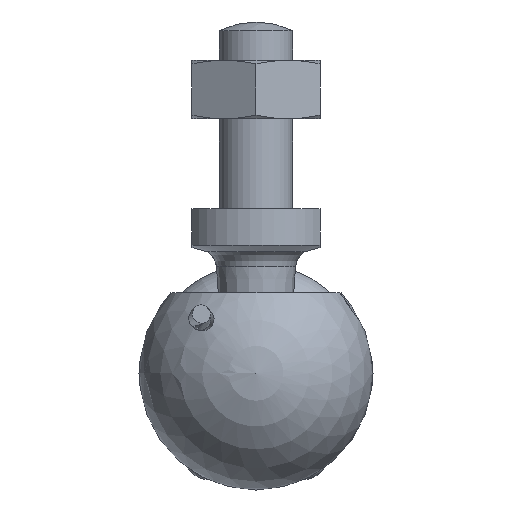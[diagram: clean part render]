
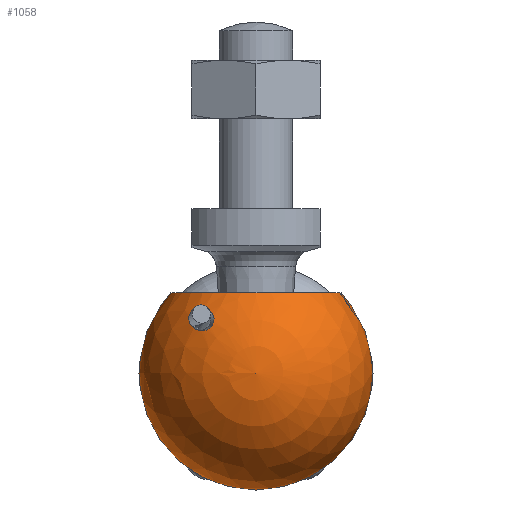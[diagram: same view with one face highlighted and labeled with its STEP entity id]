
A CAD part, left-side view. The second image highlights one B-rep face of the part: STEP entity #1058.
In plain terms, the highlighted spherical face has radius 6.4 mm.
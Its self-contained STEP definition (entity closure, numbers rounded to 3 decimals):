
#43=B_SPLINE_CURVE_WITH_KNOTS('',3,(#1769,#1770,#1771,#1772,#1773,#1774,
#1775,#1776,#1777,#1778,#1779,#1780,#1781,#1782,#1783),.UNSPECIFIED.,.T.,
 .F.,(1,1,1,1,1,1,1,1,1,1,1,1,1,1,1,1,1,1,1),(-0.001,-0.001,
0.,0.,0.,0.001,0.001,
0.002,0.002,0.002,0.003,
0.003,0.004,0.004,0.005,
0.005,0.005,0.006,0.006),
 .UNSPECIFIED.);
#44=B_SPLINE_CURVE_WITH_KNOTS('',3,(#1789,#1790,#1791,#1792,#1793,#1794,
#1795,#1796,#1797,#1798,#1799,#1800,#1801,#1802,#1803),.UNSPECIFIED.,.T.,
 .F.,(1,1,1,1,1,1,1,1,1,1,1,1,1,1,1,1,1,1,1),(-0.001,-0.001,
0.,0.,0.,0.001,0.001,
0.002,0.002,0.002,0.003,
0.003,0.004,0.004,0.005,
0.005,0.005,0.006,0.006),
 .UNSPECIFIED.);
#72=SPHERICAL_SURFACE('',#1203,6.4);
#235=ORIENTED_EDGE('',*,*,#443,.T.);
#236=ORIENTED_EDGE('',*,*,#444,.F.);
#237=ORIENTED_EDGE('',*,*,#445,.T.);
#238=ORIENTED_EDGE('',*,*,#446,.T.);
#443=EDGE_CURVE('',#558,#558,#43,.T.);
#444=EDGE_CURVE('',#559,#559,#652,.T.);
#445=EDGE_CURVE('',#560,#560,#653,.F.);
#446=EDGE_CURVE('',#561,#561,#44,.T.);
#558=VERTEX_POINT('',#1784);
#559=VERTEX_POINT('',#1786);
#560=VERTEX_POINT('',#1788);
#561=VERTEX_POINT('',#1804);
#652=CIRCLE('',#1204,3.306);
#653=CIRCLE('',#1205,4.648);
#748=EDGE_LOOP('',(#235));
#749=EDGE_LOOP('',(#236));
#750=EDGE_LOOP('',(#237));
#751=EDGE_LOOP('',(#238));
#896=FACE_BOUND('',#748,.T.);
#897=FACE_BOUND('',#749,.T.);
#898=FACE_BOUND('',#750,.T.);
#899=FACE_BOUND('',#751,.T.);
#1058=ADVANCED_FACE('',(#896,#897,#898,#899),#72,.T.);
#1203=AXIS2_PLACEMENT_3D('',#1768,#1429,#1430);
#1204=AXIS2_PLACEMENT_3D('',#1785,#1431,#1432);
#1205=AXIS2_PLACEMENT_3D('',#1787,#1433,#1434);
#1429=DIRECTION('',(1.,0.,0.));
#1430=DIRECTION('',(0.,1.,0.));
#1431=DIRECTION('',(1.,0.,0.));
#1432=DIRECTION('',(0.,0.,-1.));
#1433=DIRECTION('',(0.,0.,1.));
#1434=DIRECTION('',(1.,0.,0.));
#1768=CARTESIAN_POINT('',(0.,0.,0.));
#1769=CARTESIAN_POINT('',(3.561,3.916,3.603));
#1770=CARTESIAN_POINT('',(3.417,4.172,3.451));
#1771=CARTESIAN_POINT('',(3.47,4.346,3.173));
#1772=CARTESIAN_POINT('',(3.707,4.397,2.822));
#1773=CARTESIAN_POINT('',(4.093,4.264,2.483));
#1774=CARTESIAN_POINT('',(4.487,3.954,2.297));
#1775=CARTESIAN_POINT('',(4.744,3.618,2.323));
#1776=CARTESIAN_POINT('',(4.858,3.353,2.479));
#1777=CARTESIAN_POINT('',(4.826,3.18,2.756));
#1778=CARTESIAN_POINT('',(4.627,3.133,3.133));
#1779=CARTESIAN_POINT('',(4.251,3.302,3.481));
#1780=CARTESIAN_POINT('',(3.848,3.608,3.635));
#1781=CARTESIAN_POINT('',(3.561,3.916,3.603));
#1782=CARTESIAN_POINT('',(3.417,4.172,3.451));
#1783=CARTESIAN_POINT('',(3.47,4.346,3.173));
#1784=CARTESIAN_POINT('',(3.45,4.158,3.43));
#1785=CARTESIAN_POINT('',(5.48,0.,0.));
#1786=CARTESIAN_POINT('',(5.48,0.,-3.306));
#1787=CARTESIAN_POINT('',(0.,0.,4.4));
#1788=CARTESIAN_POINT('',(4.648,0.,4.4));
#1789=CARTESIAN_POINT('',(-5.286,2.284,2.8));
#1790=CARTESIAN_POINT('',(-5.366,2.425,2.514));
#1791=CARTESIAN_POINT('',(-5.317,2.695,2.337));
#1792=CARTESIAN_POINT('',(-5.132,3.077,2.288));
#1793=CARTESIAN_POINT('',(-4.802,3.462,2.459));
#1794=CARTESIAN_POINT('',(-4.444,3.675,2.79));
#1795=CARTESIAN_POINT('',(-4.195,3.686,3.132));
#1796=CARTESIAN_POINT('',(-4.09,3.55,3.416));
#1797=CARTESIAN_POINT('',(-4.166,3.278,3.591));
#1798=CARTESIAN_POINT('',(-4.387,2.922,3.641));
#1799=CARTESIAN_POINT('',(-4.73,2.54,3.502));
#1800=CARTESIAN_POINT('',(-5.072,2.296,3.168));
#1801=CARTESIAN_POINT('',(-5.286,2.284,2.8));
#1802=CARTESIAN_POINT('',(-5.366,2.425,2.514));
#1803=CARTESIAN_POINT('',(-5.317,2.695,2.337));
#1804=CARTESIAN_POINT('',(-5.345,2.446,2.532));
